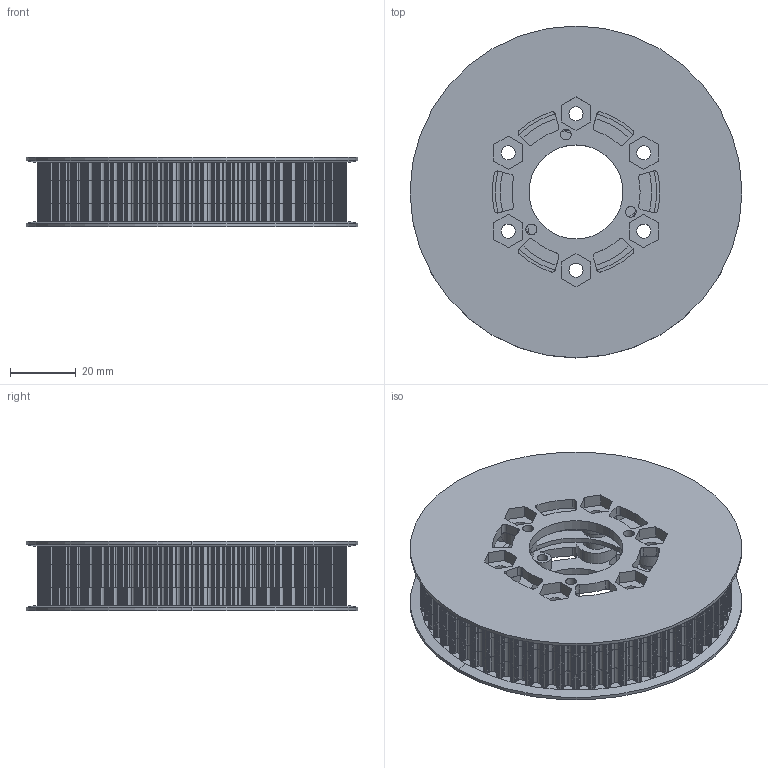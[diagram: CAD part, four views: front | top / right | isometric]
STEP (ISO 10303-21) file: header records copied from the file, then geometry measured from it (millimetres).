
FILE_DESCRIPTION (( 'STEP AP214' ), '1' );
FILE_NAME ('217-3200-STEP.STEP', '2013-12-06T21:19:02', ( '' ), ( '' ), 'SwSTEP 2.0', 'SolidWorks 2013', '' );
FILE_SCHEMA (( 'AUTOMOTIVE_DESIGN' ));
Length unit declared in the file: millimetre
Products named in the file (3): 217-3200-001 Rev3; 217-3200-STEP; 217-3200-002 Rev3
Assembly tree (3 placements, depth 2):
  217-3200-STEP
    217-3200-001 Rev3  x2
    217-3200-002 Rev3
Bounding box: 101 x 101 x 21 mm (x, y, z)
Volume: 72929.6 mm3; surface area: 64084.2 mm2
Topology: 3 solids, 3 shells, 4224 faces, 12320 edges, 8192 vertices
Faces by surface type: cylinder 3332, plane 840, torus 48, cone 4
Entity records: 96820 total; most frequent: DIRECTION 18594, CARTESIAN_POINT 16660, ORIENTED_EDGE 16580, EDGE_CURVE 8290, AXIS2_PLACEMENT_3D 7446, VERTEX_POINT 5512, CIRCLE 4588, LINE 3702
